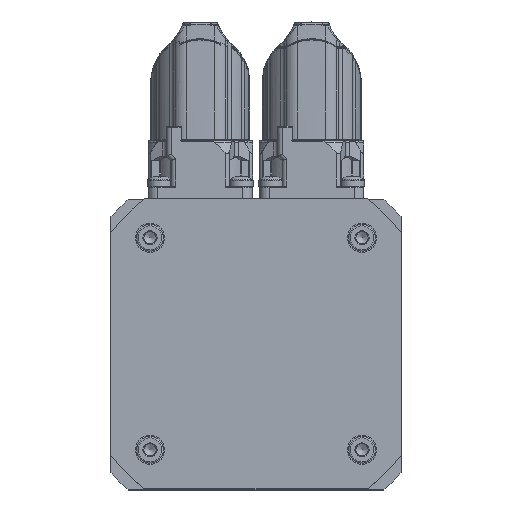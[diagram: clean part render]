
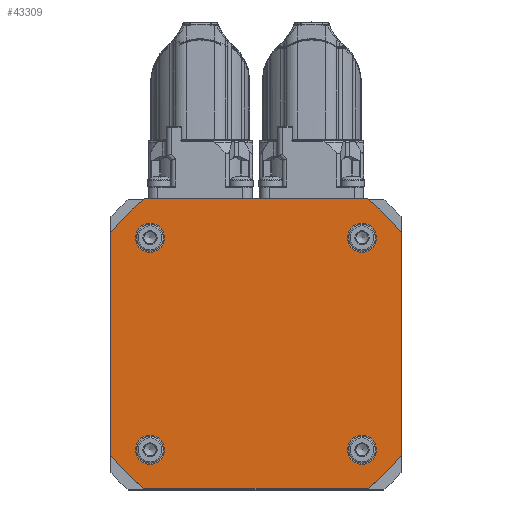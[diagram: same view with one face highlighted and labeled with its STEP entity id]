
A CAD part, top view. The second image highlights one B-rep face of the part: STEP entity #43309.
In plain terms, the highlighted planar face has unit normal (0, 0, 1).
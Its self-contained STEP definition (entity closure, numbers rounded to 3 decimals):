
#5439=LINE('',#64363,#7476);
#5443=LINE('',#64375,#7480);
#5447=LINE('',#64387,#7484);
#5451=LINE('',#64397,#7488);
#7476=VECTOR('',#51625,45.993);
#7480=VECTOR('',#51637,45.993);
#7484=VECTOR('',#51649,45.993);
#7488=VECTOR('',#51661,45.993);
#9486=PLANE('',#46102);
#10215=FACE_BOUND('',#13399,.T.);
#10216=FACE_BOUND('',#13400,.T.);
#10217=FACE_BOUND('',#13401,.T.);
#10218=FACE_BOUND('',#13402,.T.);
#10219=FACE_BOUND('',#13403,.T.);
#13399=EDGE_LOOP('',(#29850));
#13400=EDGE_LOOP('',(#29851));
#13401=EDGE_LOOP('',(#29852));
#13402=EDGE_LOOP('',(#29853));
#13403=EDGE_LOOP('',(#29854,#29855,#29856,#29857,#29858,#29859,#29860,#29861));
#16438=CIRCLE('',#46071,3.);
#16440=CIRCLE('',#46075,3.);
#16442=CIRCLE('',#46079,3.);
#16444=CIRCLE('',#46083,3.);
#16447=CIRCLE('',#46088,37.8);
#16449=CIRCLE('',#46092,37.8);
#16451=CIRCLE('',#46096,37.8);
#16453=CIRCLE('',#46100,37.8);
#19082=VERTEX_POINT('',#64327);
#19084=VERTEX_POINT('',#64333);
#19086=VERTEX_POINT('',#64339);
#19088=VERTEX_POINT('',#64345);
#19092=VERTEX_POINT('',#64354);
#19093=VERTEX_POINT('',#64356);
#19095=VERTEX_POINT('',#64362);
#19097=VERTEX_POINT('',#64368);
#19099=VERTEX_POINT('',#64374);
#19101=VERTEX_POINT('',#64380);
#19103=VERTEX_POINT('',#64386);
#19105=VERTEX_POINT('',#64392);
#23258=EDGE_CURVE('',#19082,#19082,#16438,.T.);
#23260=EDGE_CURVE('',#19084,#19084,#16440,.T.);
#23262=EDGE_CURVE('',#19086,#19086,#16442,.T.);
#23264=EDGE_CURVE('',#19088,#19088,#16444,.T.);
#23268=EDGE_CURVE('',#19093,#19092,#16447,.T.);
#23271=EDGE_CURVE('',#19095,#19093,#5439,.T.);
#23274=EDGE_CURVE('',#19097,#19095,#16449,.T.);
#23277=EDGE_CURVE('',#19099,#19097,#5443,.T.);
#23280=EDGE_CURVE('',#19101,#19099,#16451,.T.);
#23283=EDGE_CURVE('',#19103,#19101,#5447,.T.);
#23286=EDGE_CURVE('',#19105,#19103,#16453,.T.);
#23289=EDGE_CURVE('',#19092,#19105,#5451,.T.);
#29850=ORIENTED_EDGE('',*,*,#23258,.T.);
#29851=ORIENTED_EDGE('',*,*,#23260,.T.);
#29852=ORIENTED_EDGE('',*,*,#23262,.T.);
#29853=ORIENTED_EDGE('',*,*,#23264,.T.);
#29854=ORIENTED_EDGE('',*,*,#23289,.T.);
#29855=ORIENTED_EDGE('',*,*,#23286,.T.);
#29856=ORIENTED_EDGE('',*,*,#23283,.T.);
#29857=ORIENTED_EDGE('',*,*,#23280,.T.);
#29858=ORIENTED_EDGE('',*,*,#23277,.T.);
#29859=ORIENTED_EDGE('',*,*,#23274,.T.);
#29860=ORIENTED_EDGE('',*,*,#23271,.T.);
#29861=ORIENTED_EDGE('',*,*,#23268,.T.);
#43309=ADVANCED_FACE('',(#10215,#10216,#10217,#10218,#10219),#9486,.T.);
#46071=AXIS2_PLACEMENT_3D('',#64328,#51584,#51585);
#46075=AXIS2_PLACEMENT_3D('',#64334,#51592,#51593);
#46079=AXIS2_PLACEMENT_3D('',#64340,#51600,#51601);
#46083=AXIS2_PLACEMENT_3D('',#64346,#51608,#51609);
#46088=AXIS2_PLACEMENT_3D('',#64357,#51619,#51620);
#46092=AXIS2_PLACEMENT_3D('',#64369,#51631,#51632);
#46096=AXIS2_PLACEMENT_3D('',#64381,#51643,#51644);
#46100=AXIS2_PLACEMENT_3D('',#64393,#51655,#51656);
#46102=AXIS2_PLACEMENT_3D('',#64398,#51662,#51663);
#51584=DIRECTION('center_axis',(0.,0.,-1.));
#51585=DIRECTION('ref_axis',(0.,-1.,0.));
#51592=DIRECTION('center_axis',(0.,0.,-1.));
#51593=DIRECTION('ref_axis',(-1.,0.,0.));
#51600=DIRECTION('center_axis',(0.,0.,-1.));
#51601=DIRECTION('ref_axis',(0.,1.,0.));
#51608=DIRECTION('center_axis',(0.,0.,-1.));
#51609=DIRECTION('ref_axis',(1.,0.,0.));
#51619=DIRECTION('center_axis',(0.,0.,1.));
#51620=DIRECTION('ref_axis',(0.794,0.608,0.));
#51625=DIRECTION('',(0.,1.,0.));
#51631=DIRECTION('center_axis',(0.,0.,1.));
#51632=DIRECTION('ref_axis',(0.608,-0.794,0.));
#51637=DIRECTION('',(1.,0.,0.));
#51643=DIRECTION('center_axis',(0.,0.,1.));
#51644=DIRECTION('ref_axis',(-0.794,-0.608,0.));
#51649=DIRECTION('',(0.,-1.,0.));
#51655=DIRECTION('center_axis',(0.,0.,1.));
#51656=DIRECTION('ref_axis',(-0.608,0.794,0.));
#51661=DIRECTION('',(-1.,0.,0.));
#51662=DIRECTION('center_axis',(0.,0.,1.));
#51663=DIRECTION('ref_axis',(1.,0.,0.));
#64327=CARTESIAN_POINT('',(21.92,-24.92,134.35));
#64328=CARTESIAN_POINT('Origin',(21.92,-21.92,134.35));
#64333=CARTESIAN_POINT('',(-24.92,-21.92,134.35));
#64334=CARTESIAN_POINT('Origin',(-21.92,-21.92,134.35));
#64339=CARTESIAN_POINT('',(-21.92,24.92,134.35));
#64340=CARTESIAN_POINT('Origin',(-21.92,21.92,134.35));
#64345=CARTESIAN_POINT('',(24.92,21.92,134.35));
#64346=CARTESIAN_POINT('Origin',(21.92,21.92,134.35));
#64354=CARTESIAN_POINT('',(22.997,30.,134.35));
#64356=CARTESIAN_POINT('',(30.,22.997,134.35));
#64357=CARTESIAN_POINT('Origin',(0.,0.,134.35));
#64362=CARTESIAN_POINT('',(30.,-22.997,134.35));
#64363=CARTESIAN_POINT('',(30.,-30.,134.35));
#64368=CARTESIAN_POINT('',(22.997,-30.,134.35));
#64369=CARTESIAN_POINT('Origin',(0.,0.,134.35));
#64374=CARTESIAN_POINT('',(-22.997,-30.,134.35));
#64375=CARTESIAN_POINT('',(-30.,-30.,134.35));
#64380=CARTESIAN_POINT('',(-30.,-22.997,134.35));
#64381=CARTESIAN_POINT('Origin',(0.,0.,134.35));
#64386=CARTESIAN_POINT('',(-30.,22.997,134.35));
#64387=CARTESIAN_POINT('',(-30.,30.,134.35));
#64392=CARTESIAN_POINT('',(-22.997,30.,134.35));
#64393=CARTESIAN_POINT('Origin',(0.,0.,134.35));
#64397=CARTESIAN_POINT('',(30.,30.,134.35));
#64398=CARTESIAN_POINT('Origin',(0.,0.,
134.35));
